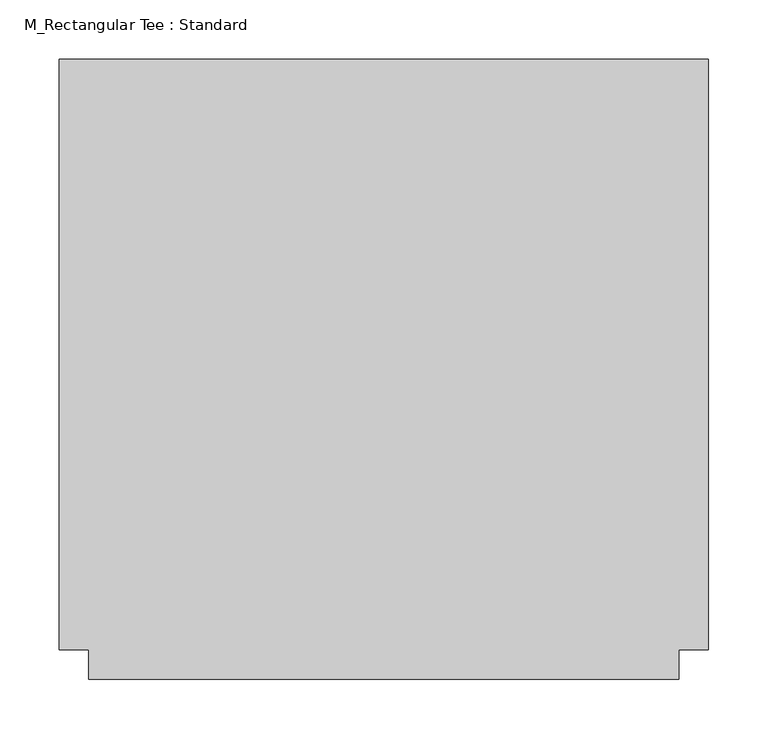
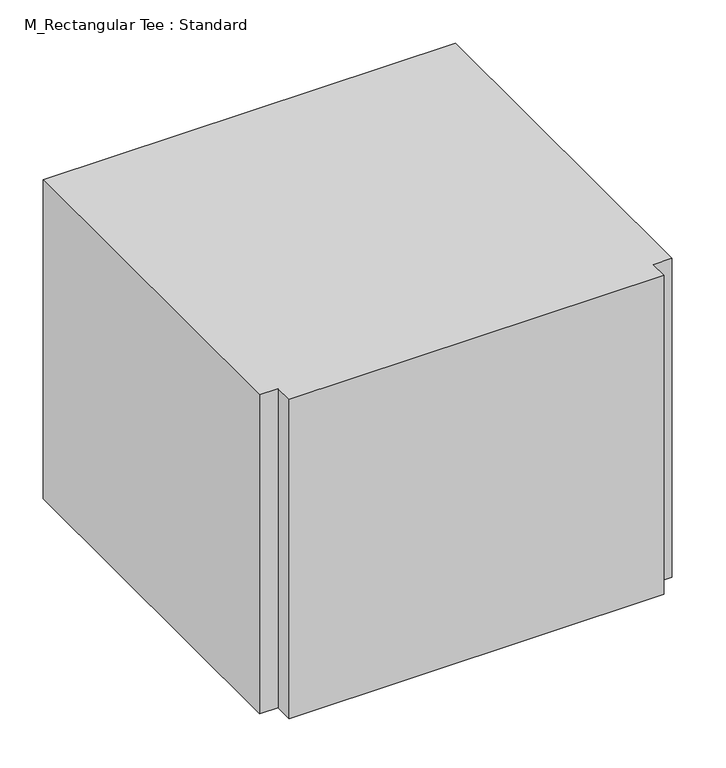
"""IFC4 building model written with IfcOpenShell, lengths in millimetres: duct fitting geometry, M_Rectangular Tee : Standard."""

from ifc_helpers import new_model, si_unit, frame, origin, place, context, project, spatial, polyline, outline, extrude, source, transform, mapped, element, save


def m_rectangular_tee_standard_04ac002c(model_context):
    return source(origin(), model_context, "Body", "SweptSolid", [
        extrude(outline(polyline([(-275.0, -250.0), (-275.0, 250.0), (275.0, 250.0), (275.0, -250.0), (250.0, -250.0), (250.0, -275.0), (-250.0, -275.0), (-250.0, -250.0), (-275.0, -250.0)])), frame((0.0, 0.0, -225.0), z_axis=(0.0, 0.0, 1.0), x_axis=(1.0, 0.0, 0.0)), (0.0, 0.0, 1.0), 450.0),
        extrude(outline(polyline([(-275.0, 250.0), (275.0, 250.0), (275.0, -250.0), (250.0, -250.0), (250.0, -275.0), (-250.0, -275.0), (-250.0, -250.0), (-275.0, -250.0), (-275.0, 250.0)])), frame((0.0, 0.0, -225.0), z_axis=(0.0, 0.0, 1.0), x_axis=(1.0, 0.0, 0.0)), (0.0, 0.0, 1.0), 450.0),
        extrude(outline(polyline([(-275.0, -250.0), (-275.0, 250.0), (275.0, 250.0), (275.0, -250.0), (250.0, -250.0), (250.0, -275.0), (-250.0, -275.0), (-250.0, -250.0), (-275.0, -250.0)])), frame((0.0, 0.0, -225.0), z_axis=(0.0, 0.0, 1.0), x_axis=(1.0, 0.0, 0.0)), (0.0, 0.0, 1.0), 450.0),
    ])


if __name__ == "__main__":
    model = new_model("IFC4")
    model_context = context("Model", 3, world=origin())
    ifc_project = project(units=[si_unit("LENGTHUNIT", "METRE", prefix="MILLI")], contexts=[model_context])
    site = spatial("IfcSite", under=ifc_project)
    building = spatial("IfcBuilding", under=site)
    placement = place(None, origin())
    m_rectangular_tee_standard_shape = m_rectangular_tee_standard_04ac002c(model_context)
    element("IfcDuctFitting", 1, ObjectType="M_Rectangular Tee : Standard", at=placement, inside=building, context=model_context, shape_type="MappedRepresentation", body=[
        mapped(m_rectangular_tee_standard_shape, transform((0.0, 0.0, 0.0), x_axis=(1.0, 0.0, 0.0), y_axis=(0.0, 1.0, 0.0), z_axis=(0.0, 0.0, 1.0))),
    ])
    save(model, "model.ifc")
